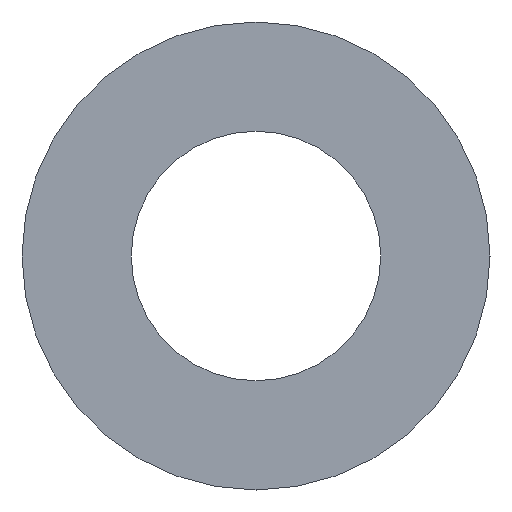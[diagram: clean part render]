
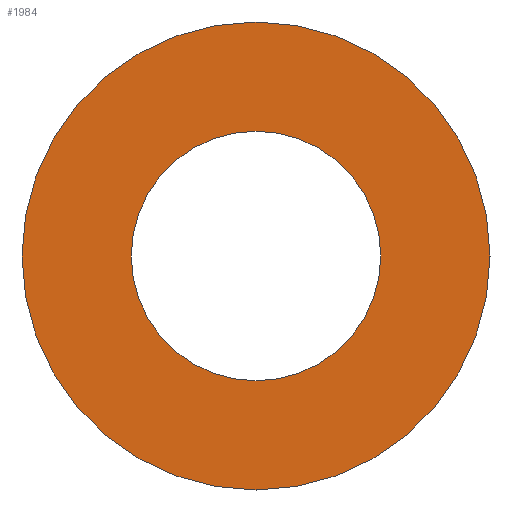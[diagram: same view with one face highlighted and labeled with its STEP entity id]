
A CAD part, front view. The second image highlights one B-rep face of the part: STEP entity #1984.
In plain terms, the highlighted planar face has unit normal (0, -1, 0).
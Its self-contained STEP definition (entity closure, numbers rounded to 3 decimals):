
#12 = VERTEX_POINT ( 'NONE', #941 ) ;
#47 = EDGE_LOOP ( 'NONE', ( #943, #2307 ) ) ;
#197 = VERTEX_POINT ( 'NONE', #200 ) ;
#200 = CARTESIAN_POINT ( 'NONE',  ( 0., -15.5, -16. ) ) ;
#263 = EDGE_CURVE ( 'NONE', #12, #197, #3676, .T. ) ;
#349 = FACE_OUTER_BOUND ( 'NONE', #1458, .T. ) ;
#505 = DIRECTION ( 'NONE',  ( 0., -1., 0. ) ) ;
#568 = CIRCLE ( 'NONE', #2024, 16. ) ;
#577 = CARTESIAN_POINT ( 'NONE',  ( 0., -15.5, 0. ) ) ;
#666 = VERTEX_POINT ( 'NONE', #3588 ) ;
#667 = DIRECTION ( 'NONE',  ( 0., 0., -1. ) ) ;
#697 = DIRECTION ( 'NONE',  ( 0., 0., -1. ) ) ;
#762 = AXIS2_PLACEMENT_3D ( 'NONE', #577, #3451, #2605 ) ;
#813 = CARTESIAN_POINT ( 'NONE',  ( 0., -15.5, 16. ) ) ;
#941 = CARTESIAN_POINT ( 'NONE',  ( 0., -15.5, 16. ) ) ;
#943 = ORIENTED_EDGE ( 'NONE', *, *, #2366, .F. ) ;
#1006 = DIRECTION ( 'NONE',  ( 0., -1., 0. ) ) ;
#1019 = CARTESIAN_POINT ( 'NONE',  ( 0., -15.5, 0. ) ) ;
#1072 = DIRECTION ( 'NONE',  ( 0., 0., 1. ) ) ;
#1229 = ORIENTED_EDGE ( 'NONE', *, *, #1379, .T. ) ;
#1379 = EDGE_CURVE ( 'NONE', #666, #3673, #2726, .T. ) ;
#1458 = EDGE_LOOP ( 'NONE', ( #1229, #3710 ) ) ;
#1561 = FACE_BOUND ( 'NONE', #47, .T. ) ;
#1626 = CARTESIAN_POINT ( 'NONE',  ( 0., -15.5, 0. ) ) ;
#1635 = AXIS2_PLACEMENT_3D ( 'NONE', #1626, #505, #2497 ) ;
#1645 = DIRECTION ( 'NONE',  ( 0., 1., 0. ) ) ;
#1984 = ADVANCED_FACE ( 'NONE', ( #1561, #349 ), #3077, .F. ) ;
#2024 = AXIS2_PLACEMENT_3D ( 'NONE', #2416, #2094, #667 ) ;
#2094 = DIRECTION ( 'NONE',  ( 0., -1., 0. ) ) ;
#2307 = ORIENTED_EDGE ( 'NONE', *, *, #263, .F. ) ;
#2366 = EDGE_CURVE ( 'NONE', #197, #12, #568, .T. ) ;
#2416 = CARTESIAN_POINT ( 'NONE',  ( 0., -15.5, 0. ) ) ;
#2497 = DIRECTION ( 'NONE',  ( 0., 0., -1. ) ) ;
#2605 = DIRECTION ( 'NONE',  ( 0., 0., -1. ) ) ;
#2704 = CIRCLE ( 'NONE', #3023, 30. ) ;
#2726 = CIRCLE ( 'NONE', #1635, 30. ) ;
#3023 = AXIS2_PLACEMENT_3D ( 'NONE', #1019, #1006, #697 ) ;
#3077 = PLANE ( 'NONE',  #3718 ) ;
#3133 = CARTESIAN_POINT ( 'NONE',  ( 0., -15.5, 30. ) ) ;
#3451 = DIRECTION ( 'NONE',  ( 0., -1., 0. ) ) ;
#3464 = EDGE_CURVE ( 'NONE', #3673, #666, #2704, .T. ) ;
#3588 = CARTESIAN_POINT ( 'NONE',  ( 0., -15.5, -30. ) ) ;
#3673 = VERTEX_POINT ( 'NONE', #3133 ) ;
#3676 = CIRCLE ( 'NONE', #762, 16. ) ;
#3710 = ORIENTED_EDGE ( 'NONE', *, *, #3464, .T. ) ;
#3718 = AXIS2_PLACEMENT_3D ( 'NONE', #813, #1645, #1072 ) ;
